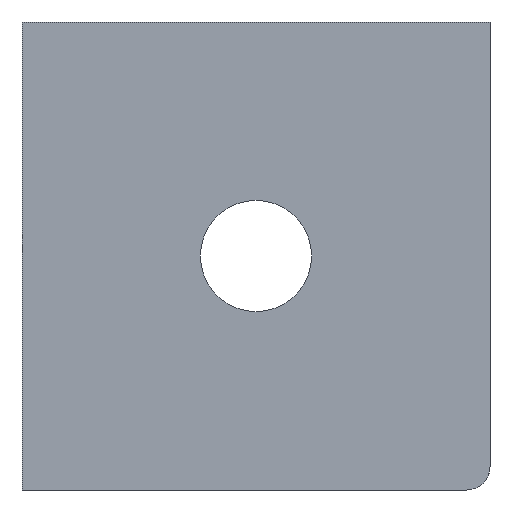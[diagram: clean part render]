
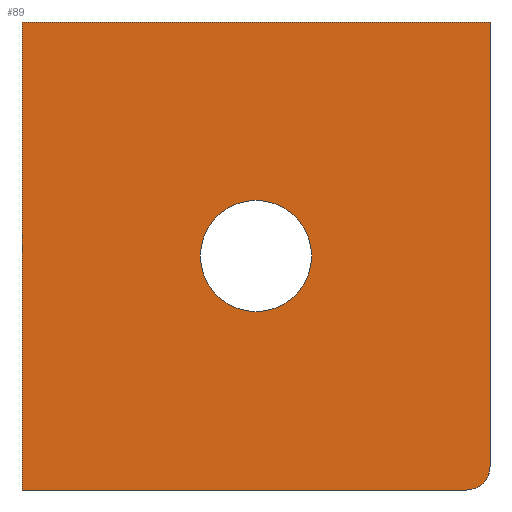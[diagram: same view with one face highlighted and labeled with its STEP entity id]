
A CAD part, left-side view. The second image highlights one B-rep face of the part: STEP entity #89.
In plain terms, the highlighted planar face has unit normal (-1, 0, 0).
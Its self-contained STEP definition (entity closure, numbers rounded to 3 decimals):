
#4 = LINE ( 'NONE', #846, #1080 ) ;
#6 = CIRCLE ( 'NONE', #516, 2. ) ;
#61 = VERTEX_POINT ( 'NONE', #1068 ) ;
#89 = ADVANCED_FACE ( 'NONE', ( #580, #526 ), #202, .F. ) ;
#112 = VERTEX_POINT ( 'NONE', #992 ) ;
#115 = DIRECTION ( 'NONE',  ( 0., 0., -1. ) ) ;
#116 = ORIENTED_EDGE ( 'NONE', *, *, #830, .T. ) ;
#126 = CARTESIAN_POINT ( 'NONE',  ( -43.544, 27.595, 40. ) ) ;
#142 = DIRECTION ( 'NONE',  ( -1., 0., 0. ) ) ;
#147 = CARTESIAN_POINT ( 'NONE',  ( -43.544, 27.595, 0. ) ) ;
#152 = AXIS2_PLACEMENT_3D ( 'NONE', #826, #142, #308 ) ;
#160 = CARTESIAN_POINT ( 'NONE',  ( -43.544, -12.405, 40. ) ) ;
#164 = EDGE_CURVE ( 'NONE', #388, #676, #6, .T. ) ;
#184 = CARTESIAN_POINT ( 'NONE',  ( -43.544, 7.595, 20. ) ) ;
#202 = PLANE ( 'NONE',  #629 ) ;
#216 = ORIENTED_EDGE ( 'NONE', *, *, #892, .F. ) ;
#246 = EDGE_CURVE ( 'NONE', #112, #61, #648, .T. ) ;
#308 = DIRECTION ( 'NONE',  ( 0., -1., 0. ) ) ;
#329 = ORIENTED_EDGE ( 'NONE', *, *, #246, .F. ) ;
#339 = VERTEX_POINT ( 'NONE', #799 ) ;
#353 = LINE ( 'NONE', #126, #1118 ) ;
#379 = EDGE_CURVE ( 'NONE', #61, #112, #398, .T. ) ;
#381 = DIRECTION ( 'NONE',  ( 1., 0., 0. ) ) ;
#388 = VERTEX_POINT ( 'NONE', #1007 ) ;
#398 = CIRCLE ( 'NONE', #152, 4.75 ) ;
#425 = CARTESIAN_POINT ( 'NONE',  ( -43.544, -12.405, 2. ) ) ;
#460 = LINE ( 'NONE', #1058, #1078 ) ;
#464 = VERTEX_POINT ( 'NONE', #160 ) ;
#481 = ORIENTED_EDGE ( 'NONE', *, *, #164, .T. ) ;
#516 = AXIS2_PLACEMENT_3D ( 'NONE', #956, #780, #781 ) ;
#519 = DIRECTION ( 'NONE',  ( -1., 0., 0. ) ) ;
#526 = FACE_OUTER_BOUND ( 'NONE', #527, .T. ) ;
#527 = EDGE_LOOP ( 'NONE', ( #893, #481, #951, #216, #116 ) ) ;
#530 = EDGE_CURVE ( 'NONE', #464, #676, #4, .T. ) ;
#544 = CARTESIAN_POINT ( 'NONE',  ( -43.544, 27.595, 40. ) ) ;
#580 = FACE_BOUND ( 'NONE', #996, .T. ) ;
#602 = DIRECTION ( 'NONE',  ( 0., -1., 0. ) ) ;
#629 = AXIS2_PLACEMENT_3D ( 'NONE', #889, #381, #895 ) ;
#636 = ORIENTED_EDGE ( 'NONE', *, *, #379, .F. ) ;
#648 = CIRCLE ( 'NONE', #1116, 4.75 ) ;
#676 = VERTEX_POINT ( 'NONE', #425 ) ;
#685 = EDGE_CURVE ( 'NONE', #935, #388, #460, .T. ) ;
#700 = LINE ( 'NONE', #544, #874 ) ;
#780 = DIRECTION ( 'NONE',  ( -1., 0., 0. ) ) ;
#781 = DIRECTION ( 'NONE',  ( 0., 1., 0. ) ) ;
#799 = CARTESIAN_POINT ( 'NONE',  ( -43.544, 27.595, 40. ) ) ;
#826 = CARTESIAN_POINT ( 'NONE',  ( -43.544, 7.595, 20. ) ) ;
#830 = EDGE_CURVE ( 'NONE', #339, #935, #353, .T. ) ;
#846 = CARTESIAN_POINT ( 'NONE',  ( -43.544, -12.405, 40. ) ) ;
#874 = VECTOR ( 'NONE', #1077, 1000. ) ;
#889 = CARTESIAN_POINT ( 'NONE',  ( -43.544, 27.595, 40. ) ) ;
#892 = EDGE_CURVE ( 'NONE', #339, #464, #700, .T. ) ;
#893 = ORIENTED_EDGE ( 'NONE', *, *, #685, .T. ) ;
#895 = DIRECTION ( 'NONE',  ( 0., 1., 0. ) ) ;
#935 = VERTEX_POINT ( 'NONE', #147 ) ;
#951 = ORIENTED_EDGE ( 'NONE', *, *, #530, .F. ) ;
#956 = CARTESIAN_POINT ( 'NONE',  ( -43.544, -10.405, 2. ) ) ;
#992 = CARTESIAN_POINT ( 'NONE',  ( -43.544, 2.845, 20. ) ) ;
#996 = EDGE_LOOP ( 'NONE', ( #329, #636 ) ) ;
#1007 = CARTESIAN_POINT ( 'NONE',  ( -43.544, -10.405, 0. ) ) ;
#1039 = DIRECTION ( 'NONE',  ( 0., 0., -1. ) ) ;
#1058 = CARTESIAN_POINT ( 'NONE',  ( -43.544, 27.595, 0. ) ) ;
#1064 = DIRECTION ( 'NONE',  ( 0., -1., 0. ) ) ;
#1068 = CARTESIAN_POINT ( 'NONE',  ( -43.544, 12.345, 20. ) ) ;
#1077 = DIRECTION ( 'NONE',  ( 0., -1., 0. ) ) ;
#1078 = VECTOR ( 'NONE', #1064, 1000. ) ;
#1080 = VECTOR ( 'NONE', #1039, 1000. ) ;
#1116 = AXIS2_PLACEMENT_3D ( 'NONE', #184, #519, #602 ) ;
#1118 = VECTOR ( 'NONE', #115, 1000. ) ;
